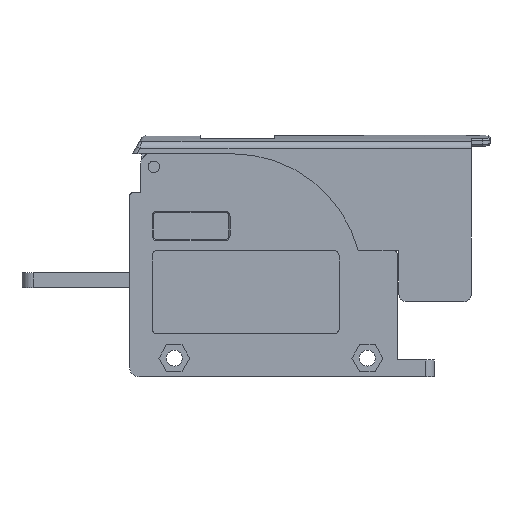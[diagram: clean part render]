
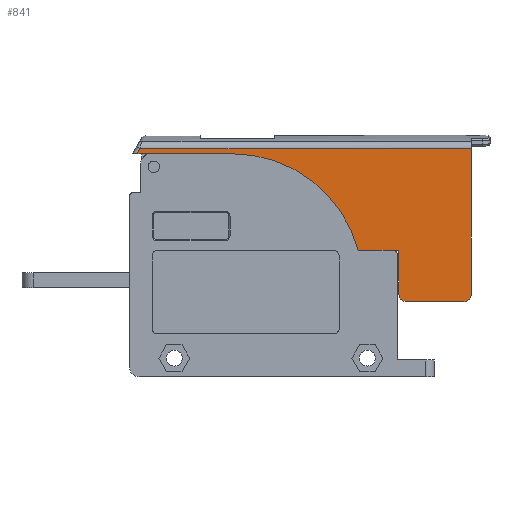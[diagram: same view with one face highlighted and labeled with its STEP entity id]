
A CAD part, left-side view. The second image highlights one B-rep face of the part: STEP entity #841.
In plain terms, the highlighted planar face has unit normal (-1, 0, 0).
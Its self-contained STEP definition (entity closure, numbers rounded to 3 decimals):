
#445=CIRCLE('',#5600,35.);
#516=CIRCLE('',#5809,2.);
#520=CIRCLE('',#5815,2.);
#841=ADVANCED_FACE('',(#1278),#1027,.T.);
#1027=PLANE('',#5909);
#1278=FACE_OUTER_BOUND('',#1576,.T.);
#1576=EDGE_LOOP('',(#2891,#2892,#2893,#2894,#2895,#2896,#2897,#2898,#2899,
#2900,#2901,#2902,#2903));
#2891=ORIENTED_EDGE('',*,*,#4320,.T.);
#2892=ORIENTED_EDGE('',*,*,#4321,.T.);
#2893=ORIENTED_EDGE('',*,*,#3633,.T.);
#2894=ORIENTED_EDGE('',*,*,#3813,.F.);
#2895=ORIENTED_EDGE('',*,*,#3638,.F.);
#2896=ORIENTED_EDGE('',*,*,#4322,.F.);
#2897=ORIENTED_EDGE('',*,*,#4323,.F.);
#2898=ORIENTED_EDGE('',*,*,#4140,.T.);
#2899=ORIENTED_EDGE('',*,*,#4166,.T.);
#2900=ORIENTED_EDGE('',*,*,#4132,.T.);
#2901=ORIENTED_EDGE('',*,*,#4158,.T.);
#2902=ORIENTED_EDGE('',*,*,#4319,.T.);
#2903=ORIENTED_EDGE('',*,*,#4002,.T.);
#3133=VERTEX_POINT('',#7385);
#3134=VERTEX_POINT('',#7386);
#3138=VERTEX_POINT('',#7395);
#3139=VERTEX_POINT('',#7397);
#3386=VERTEX_POINT('',#8131);
#3388=VERTEX_POINT('',#8148);
#3475=VERTEX_POINT('',#8432);
#3476=VERTEX_POINT('',#8433);
#3483=VERTEX_POINT('',#8450);
#3484=VERTEX_POINT('',#8451);
#3498=VERTEX_POINT('',#8487);
#3601=VERTEX_POINT('',#9411);
#3602=VERTEX_POINT('',#9414);
#3633=EDGE_CURVE('',#3133,#3134,#4389,.T.);
#3638=EDGE_CURVE('',#3138,#3139,#4394,.T.);
#3813=EDGE_CURVE('',#3139,#3134,#445,.T.);
#4002=EDGE_CURVE('',#3386,#3388,#4669,.T.);
#4132=EDGE_CURVE('',#3475,#3476,#516,.T.);
#4140=EDGE_CURVE('',#3483,#3484,#520,.T.);
#4158=EDGE_CURVE('',#3476,#3498,#4773,.T.);
#4166=EDGE_CURVE('',#3484,#3475,#4776,.T.);
#4319=EDGE_CURVE('',#3498,#3386,#4872,.T.);
#4320=EDGE_CURVE('',#3388,#3601,#4873,.T.);
#4321=EDGE_CURVE('',#3601,#3133,#4874,.T.);
#4322=EDGE_CURVE('',#3602,#3138,#4875,.T.);
#4323=EDGE_CURVE('',#3483,#3602,#4876,.T.);
#4389=LINE('',#7384,#4934);
#4394=LINE('',#7396,#4939);
#4669=LINE('',#8149,#5214);
#4773=LINE('',#8486,#5318);
#4776=LINE('',#8502,#5321);
#4872=LINE('',#9408,#5423);
#4873=LINE('',#9410,#5424);
#4874=LINE('',#9412,#5425);
#4875=LINE('',#9413,#5426);
#4876=LINE('',#9415,#5427);
#4934=VECTOR('',#5959,1.);
#4939=VECTOR('',#5966,1.);
#5214=VECTOR('',#6657,1.);
#5318=VECTOR('',#6961,1.);
#5321=VECTOR('',#6976,1.);
#5423=VECTOR('',#7226,1.);
#5424=VECTOR('',#7229,1.);
#5425=VECTOR('',#7230,1.);
#5426=VECTOR('',#7231,1.);
#5427=VECTOR('',#7232,1.);
#5600=AXIS2_PLACEMENT_3D('',#7755,#6253,#6254);
#5809=AXIS2_PLACEMENT_3D('',#8431,#6910,#6911);
#5815=AXIS2_PLACEMENT_3D('',#8449,#6926,#6927);
#5909=AXIS2_PLACEMENT_3D('',#9416,#7233,#7234);
#5959=DIRECTION('',(0.,-1.,0.));
#5966=DIRECTION('',(0.,1.,0.));
#6253=DIRECTION('',(-1.,0.,0.));
#6254=DIRECTION('',(0.,-1.,0.));
#6657=DIRECTION('',(0.,0.5,-0.866));
#6910=DIRECTION('',(-1.,0.,0.));
#6911=DIRECTION('',(0.,-1.,0.));
#6926=DIRECTION('',(-1.,0.,0.));
#6927=DIRECTION('',(0.,-1.,0.));
#6961=DIRECTION('',(0.,0.,1.));
#6976=DIRECTION('',(0.,-1.,0.));
#7226=DIRECTION('',(0.,1.,0.));
#7229=DIRECTION('',(0.,-1.,0.));
#7230=DIRECTION('',(0.,-1.,0.));
#7231=DIRECTION('',(0.,1.,0.));
#7232=DIRECTION('',(0.,0.,1.));
#7233=DIRECTION('',(-1.,0.,0.));
#7234=DIRECTION('',(0.,0.,1.));
#7384=CARTESIAN_POINT('',(-89.55,-5.6,45.55));
#7385=CARTESIAN_POINT('',(-89.55,61.,45.55));
#7386=CARTESIAN_POINT('',(-89.55,38.8,45.55));
#7395=CARTESIAN_POINT('',(-89.55,-4.5,19.55));
#7396=CARTESIAN_POINT('',(-89.55,-5.6,19.55));
#7397=CARTESIAN_POINT('',(-89.55,4.977,19.55));
#7755=CARTESIAN_POINT('',(-89.55,38.8,10.55));
#8131=CARTESIAN_POINT('',(-89.55,63.773,46.95));
#8148=CARTESIAN_POINT('',(-89.55,64.581,45.55));
#8149=CARTESIAN_POINT('',(-89.55,64.051,46.467));
#8431=CARTESIAN_POINT('',(-89.55,-23.5,7.75));
#8432=CARTESIAN_POINT('',(-89.55,-23.5,5.75));
#8433=CARTESIAN_POINT('',(-89.55,-25.5,7.75));
#8449=CARTESIAN_POINT('',(-89.55,-8.,7.75));
#8450=CARTESIAN_POINT('',(-89.55,-6.,7.75));
#8451=CARTESIAN_POINT('',(-89.55,-8.,5.75));
#8486=CARTESIAN_POINT('',(-89.55,-25.5,47.45));
#8487=CARTESIAN_POINT('',(-89.55,-25.5,46.95));
#8502=CARTESIAN_POINT('',(-89.55,8.631,5.75));
#9408=CARTESIAN_POINT('',(-89.55,45.5,46.95));
#9410=CARTESIAN_POINT('',(-89.55,36.1,45.55));
#9411=CARTESIAN_POINT('',(-89.55,62.462,45.55));
#9412=CARTESIAN_POINT('',(-89.55,-5.6,45.55));
#9413=CARTESIAN_POINT('',(-89.55,-5.6,19.55));
#9414=CARTESIAN_POINT('',(-89.55,-6.,19.55));
#9415=CARTESIAN_POINT('',(-89.55,-6.,47.45));
#9416=CARTESIAN_POINT('',(-89.55,-5.6,47.45));
